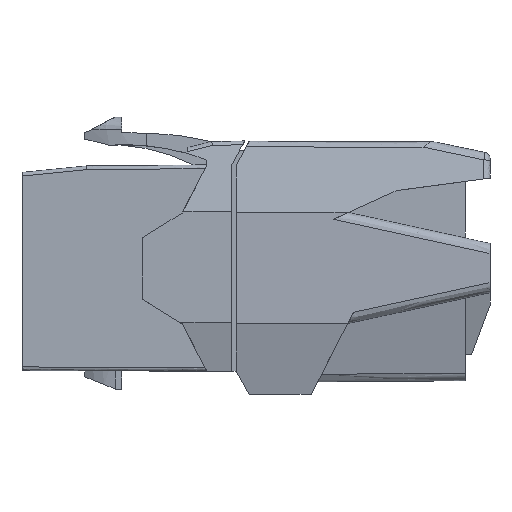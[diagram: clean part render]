
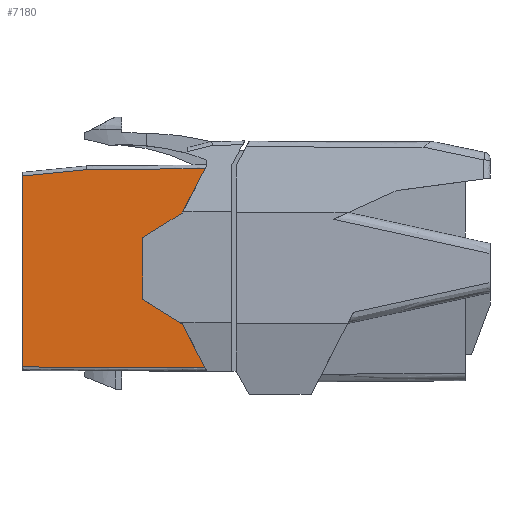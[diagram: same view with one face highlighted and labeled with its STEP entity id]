
A CAD part, front view. The second image highlights one B-rep face of the part: STEP entity #7180.
In plain terms, the highlighted free-form (B-spline) face has degree [1, 1] with [2, 2] control points.
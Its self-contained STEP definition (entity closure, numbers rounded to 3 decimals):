
#4079=CARTESIAN_POINT('',(0.,-7.25,15.799));
#4080=VERTEX_POINT('',#4079);
#4081=CARTESIAN_POINT('',(0.,-7.25,0.3));
#4082=VERTEX_POINT('',#4081);
#4083=CARTESIAN_POINT('',(0.,-7.25,15.799));
#4084=CARTESIAN_POINT('',(0.,-7.25,12.699));
#4085=CARTESIAN_POINT('',(0.,-7.25,9.599));
#4086=CARTESIAN_POINT('',(0.,-7.25,6.499));
#4087=CARTESIAN_POINT('',(0.,-7.25,3.4));
#4088=CARTESIAN_POINT('',(0.,-7.25,0.3));
#4089=B_SPLINE_CURVE_WITH_KNOTS('',5,(#4083,#4084,#4085,#4086,#4087,#4088),.UNSPECIFIED.,.F.,.U.,(6,6),(0.,15.499),.UNSPECIFIED.);
#4090=EDGE_CURVE('',#4080,#4082,#4089,.T.);
#6563=CARTESIAN_POINT('',(9.8,-7.301,5.8));
#6564=VERTEX_POINT('',#6563);
#6565=CARTESIAN_POINT('',(12.996,-7.318,3.802));
#6566=VERTEX_POINT('',#6565);
#6567=CARTESIAN_POINT('',(9.8,-7.301,5.8));
#6568=CARTESIAN_POINT('',(10.439,-7.305,5.4));
#6569=CARTESIAN_POINT('',(11.078,-7.308,5.001));
#6570=CARTESIAN_POINT('',(11.718,-7.311,4.601));
#6571=CARTESIAN_POINT('',(12.357,-7.315,4.202));
#6572=CARTESIAN_POINT('',(12.996,-7.318,3.802));
#6573=B_SPLINE_CURVE_WITH_KNOTS('',5,(#6567,#6568,#6569,#6570,#6571,#6572),.UNSPECIFIED.,.F.,.U.,(6,6),(0.,3.769),.UNSPECIFIED.);
#6574=EDGE_CURVE('',#6564,#6566,#6573,.T.);
#6645=CARTESIAN_POINT('',(14.864,-7.328,0.259));
#6646=VERTEX_POINT('',#6645);
#6647=CARTESIAN_POINT('',(12.996,-7.318,3.802));
#6648=CARTESIAN_POINT('',(13.37,-7.32,3.094));
#6649=CARTESIAN_POINT('',(13.743,-7.322,2.385));
#6650=CARTESIAN_POINT('',(14.117,-7.324,1.676));
#6651=CARTESIAN_POINT('',(14.49,-7.326,0.967));
#6652=CARTESIAN_POINT('',(14.864,-7.328,0.259));
#6653=B_SPLINE_CURVE_WITH_KNOTS('',5,(#6647,#6648,#6649,#6650,#6651,#6652),.UNSPECIFIED.,.F.,.U.,(6,6),(0.,4.006),.UNSPECIFIED.);
#6654=EDGE_CURVE('',#6566,#6646,#6653,.T.);
#6725=CARTESIAN_POINT('',(9.8,-7.301,10.8));
#6726=VERTEX_POINT('',#6725);
#6727=CARTESIAN_POINT('',(9.8,-7.301,10.8));
#6728=CARTESIAN_POINT('',(9.8,-7.301,9.8));
#6729=CARTESIAN_POINT('',(9.8,-7.301,8.8));
#6730=CARTESIAN_POINT('',(9.8,-7.301,7.8));
#6731=CARTESIAN_POINT('',(9.8,-7.301,6.8));
#6732=CARTESIAN_POINT('',(9.8,-7.301,5.8));
#6733=B_SPLINE_CURVE_WITH_KNOTS('',5,(#6727,#6728,#6729,#6730,#6731,#6732),.UNSPECIFIED.,.F.,.U.,(6,6),(0.,5.),.UNSPECIFIED.);
#6734=EDGE_CURVE('',#6726,#6564,#6733,.T.);
#6785=CARTESIAN_POINT('',(13.,-7.318,12.8));
#6786=VERTEX_POINT('',#6785);
#6787=CARTESIAN_POINT('',(13.,-7.318,12.8));
#6788=CARTESIAN_POINT('',(12.36,-7.315,12.4));
#6789=CARTESIAN_POINT('',(11.72,-7.311,12.));
#6790=CARTESIAN_POINT('',(11.08,-7.308,11.6));
#6791=CARTESIAN_POINT('',(10.44,-7.305,11.2));
#6792=CARTESIAN_POINT('',(9.8,-7.301,10.8));
#6793=B_SPLINE_CURVE_WITH_KNOTS('',5,(#6787,#6788,#6789,#6790,#6791,#6792),.UNSPECIFIED.,.F.,.U.,(6,6),(0.,3.774),.UNSPECIFIED.);
#6794=EDGE_CURVE('',#6786,#6726,#6793,.T.);
#6845=CARTESIAN_POINT('',(14.873,-7.328,16.405));
#6846=VERTEX_POINT('',#6845);
#6847=CARTESIAN_POINT('',(14.873,-7.328,16.405));
#6848=CARTESIAN_POINT('',(14.498,-7.326,15.684));
#6849=CARTESIAN_POINT('',(14.124,-7.324,14.963));
#6850=CARTESIAN_POINT('',(13.749,-7.322,14.242));
#6851=CARTESIAN_POINT('',(13.375,-7.32,13.521));
#6852=CARTESIAN_POINT('',(13.,-7.318,12.8));
#6853=B_SPLINE_CURVE_WITH_KNOTS('',5,(#6847,#6848,#6849,#6850,#6851,#6852),.UNSPECIFIED.,.F.,.U.,(6,6),(0.,4.062),.UNSPECIFIED.);
#6854=EDGE_CURVE('',#6846,#6786,#6853,.T.);
#7138=CARTESIAN_POINT('',(0.,-7.25,16.405));
#7139=CARTESIAN_POINT('',(14.873,-7.328,16.405));
#7140=CARTESIAN_POINT('',(0.,-7.25,0.259));
#7141=CARTESIAN_POINT('',(14.873,-7.328,0.259));
#7142=B_SPLINE_SURFACE_WITH_KNOTS('',1,1,((#7138,#7139),(#7140,#7141)),.PLANE_SURF.,.F.,.F.,.U.,(2,2),(2,2),(0.,1.086),(0.,1.),.UNSPECIFIED.);
#7143=CARTESIAN_POINT('',(5.219,-7.277,16.321));
#7144=VERTEX_POINT('',#7143);
#7145=CARTESIAN_POINT('',(0.,-7.25,15.799));
#7146=CARTESIAN_POINT('',(1.044,-7.255,15.903));
#7147=CARTESIAN_POINT('',(2.088,-7.261,16.007));
#7148=CARTESIAN_POINT('',(3.131,-7.266,16.112));
#7149=CARTESIAN_POINT('',(4.175,-7.272,16.216));
#7150=CARTESIAN_POINT('',(5.219,-7.277,16.321));
#7151=B_SPLINE_CURVE_WITH_KNOTS('',5,(#7145,#7146,#7147,#7148,#7149,#7150),.UNSPECIFIED.,.F.,.U.,(6,6),(0.,5.245),.UNSPECIFIED.);
#7152=EDGE_CURVE('',#4080,#7144,#7151,.T.);
#7153=ORIENTED_EDGE('',*,*,#7152,.F.);
#7154=ORIENTED_EDGE('',*,*,#4090,.T.);
#7155=CARTESIAN_POINT('',(14.864,-7.328,0.259));
#7156=CARTESIAN_POINT('',(11.891,-7.312,0.267));
#7157=CARTESIAN_POINT('',(8.918,-7.297,0.275));
#7158=CARTESIAN_POINT('',(5.945,-7.281,0.283));
#7159=CARTESIAN_POINT('',(2.973,-7.266,0.292));
#7160=CARTESIAN_POINT('',(0.,-7.25,0.3));
#7161=B_SPLINE_CURVE_WITH_KNOTS('',5,(#7155,#7156,#7157,#7158,#7159,#7160),.UNSPECIFIED.,.F.,.U.,(6,6),(0.,14.864),.UNSPECIFIED.);
#7162=EDGE_CURVE('',#6646,#4082,#7161,.T.);
#7163=ORIENTED_EDGE('',*,*,#7162,.F.);
#7164=ORIENTED_EDGE('',*,*,#6654,.F.);
#7165=ORIENTED_EDGE('',*,*,#6574,.F.);
#7166=ORIENTED_EDGE('',*,*,#6734,.F.);
#7167=ORIENTED_EDGE('',*,*,#6794,.F.);
#7168=ORIENTED_EDGE('',*,*,#6854,.F.);
#7169=CARTESIAN_POINT('',(5.219,-7.277,16.321));
#7170=CARTESIAN_POINT('',(7.15,-7.287,16.337));
#7171=CARTESIAN_POINT('',(9.08,-7.298,16.354));
#7172=CARTESIAN_POINT('',(11.011,-7.308,16.371));
#7173=CARTESIAN_POINT('',(12.942,-7.318,16.388));
#7174=CARTESIAN_POINT('',(14.873,-7.328,16.405));
#7175=B_SPLINE_CURVE_WITH_KNOTS('',5,(#7169,#7170,#7171,#7172,#7173,#7174),.UNSPECIFIED.,.F.,.U.,(6,6),(0.,9.654),.UNSPECIFIED.);
#7176=EDGE_CURVE('',#7144,#6846,#7175,.T.);
#7177=ORIENTED_EDGE('',*,*,#7176,.F.);
#7178=EDGE_LOOP('',(#7153,#7154,#7163,#7164,#7165,#7166,#7167,#7168,#7177));
#7179=FACE_OUTER_BOUND('',#7178,.T.);
#7180=ADVANCED_FACE('',(#7179),#7142,.T.);
